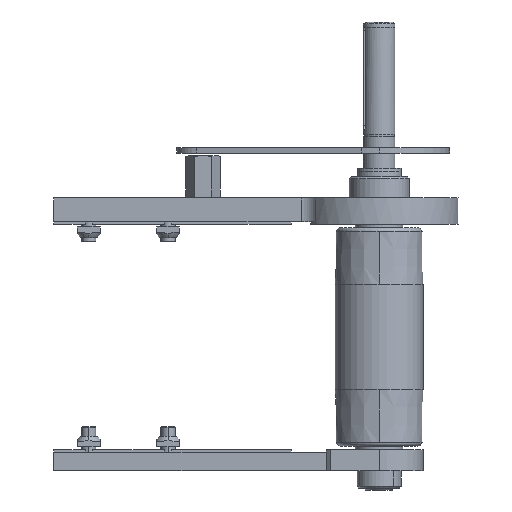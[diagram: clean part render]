
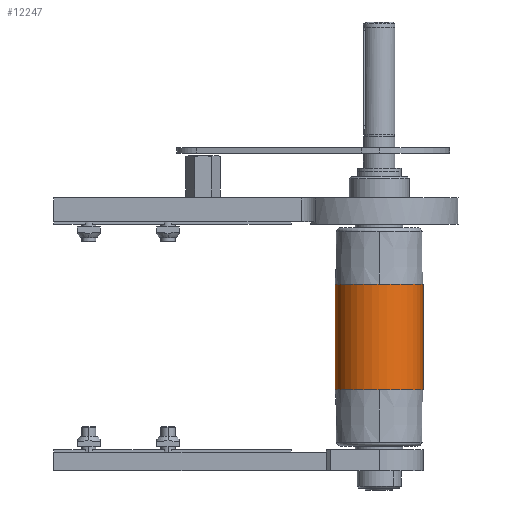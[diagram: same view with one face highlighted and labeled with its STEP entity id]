
A CAD part, front view. The second image highlights one B-rep face of the part: STEP entity #12247.
In plain terms, the highlighted cylindrical face has radius 25 mm (diameter 50 mm), a partial arc.
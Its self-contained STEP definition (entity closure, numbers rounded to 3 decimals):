
#129 = CARTESIAN_POINT ( 'NONE',  ( 30., 25., 0. ) ) ;
#339 = CIRCLE ( 'NONE', #13323, 25. ) ;
#432 = CIRCLE ( 'NONE', #2860, 25. ) ;
#478 = EDGE_CURVE ( 'NONE', #13536, #8490, #432, .T. ) ;
#900 = DIRECTION ( 'NONE',  ( 0., 0., 1. ) ) ;
#1091 = EDGE_CURVE ( 'NONE', #15106, #13536, #339, .T. ) ;
#1185 = ORIENTED_EDGE ( 'NONE', *, *, #1091, .T. ) ;
#2029 = CIRCLE ( 'NONE', #15838, 25. ) ;
#2373 = VERTEX_POINT ( 'NONE', #7479 ) ;
#2701 = CARTESIAN_POINT ( 'NONE',  ( 30., 0., 0. ) ) ;
#2860 = AXIS2_PLACEMENT_3D ( 'NONE', #9038, #10332, #13995 ) ;
#2891 = VERTEX_POINT ( 'NONE', #4787 ) ;
#2894 = DIRECTION ( 'NONE',  ( -1., 0., 0. ) ) ;
#3293 = DIRECTION ( 'NONE',  ( 0., -1., 0. ) ) ;
#3425 = DIRECTION ( 'NONE',  ( -1., 0., 0. ) ) ;
#3837 = CARTESIAN_POINT ( 'NONE',  ( -30., 0., 0. ) ) ;
#3881 = LINE ( 'NONE', #5855, #7639 ) ;
#4016 = ORIENTED_EDGE ( 'NONE', *, *, #14742, .F. ) ;
#4424 = EDGE_LOOP ( 'NONE', ( #1185, #6527, #13942, #10044, #10400, #4016 ) ) ;
#4787 = CARTESIAN_POINT ( 'NONE',  ( -30., 0., -25. ) ) ;
#4902 = AXIS2_PLACEMENT_3D ( 'NONE', #8504, #5888, #900 ) ;
#5855 = CARTESIAN_POINT ( 'NONE',  ( 60., 0., 25. ) ) ;
#5888 = DIRECTION ( 'NONE',  ( -1., 0., 0. ) ) ;
#6527 = ORIENTED_EDGE ( 'NONE', *, *, #478, .T. ) ;
#6647 = CARTESIAN_POINT ( 'NONE',  ( 60., 0., -25. ) ) ;
#7224 = CIRCLE ( 'NONE', #9968, 25. ) ;
#7479 = CARTESIAN_POINT ( 'NONE',  ( -30., 25., 0. ) ) ;
#7588 = DIRECTION ( 'NONE',  ( 0., -1., 0. ) ) ;
#7639 = VECTOR ( 'NONE', #3425, 1000. ) ;
#7830 = DIRECTION ( 'NONE',  ( 0., -1., 0. ) ) ;
#7974 = CARTESIAN_POINT ( 'NONE',  ( 30., 0., 25. ) ) ;
#8454 = EDGE_CURVE ( 'NONE', #13139, #2373, #7224, .T. ) ;
#8490 = VERTEX_POINT ( 'NONE', #15245 ) ;
#8504 = CARTESIAN_POINT ( 'NONE',  ( 60., 0., 0. ) ) ;
#8994 = DIRECTION ( 'NONE',  ( -1., 0., 0. ) ) ;
#9038 = CARTESIAN_POINT ( 'NONE',  ( 30., 0., 0. ) ) ;
#9684 = EDGE_CURVE ( 'NONE', #2373, #2891, #2029, .T. ) ;
#9968 = AXIS2_PLACEMENT_3D ( 'NONE', #3837, #8994, #7588 ) ;
#10044 = ORIENTED_EDGE ( 'NONE', *, *, #9684, .F. ) ;
#10332 = DIRECTION ( 'NONE',  ( -1., 0., 0. ) ) ;
#10400 = ORIENTED_EDGE ( 'NONE', *, *, #8454, .F. ) ;
#10898 = DIRECTION ( 'NONE',  ( -1., 0., 0. ) ) ;
#11641 = DIRECTION ( 'NONE',  ( -1., 0., 0. ) ) ;
#11707 = EDGE_CURVE ( 'NONE', #8490, #2891, #14087, .T. ) ;
#12247 = ADVANCED_FACE ( 'NONE', ( #14266 ), #15466, .T. ) ;
#13139 = VERTEX_POINT ( 'NONE', #14271 ) ;
#13256 = CARTESIAN_POINT ( 'NONE',  ( -30., 0., 0. ) ) ;
#13323 = AXIS2_PLACEMENT_3D ( 'NONE', #2701, #11641, #7830 ) ;
#13536 = VERTEX_POINT ( 'NONE', #129 ) ;
#13942 = ORIENTED_EDGE ( 'NONE', *, *, #11707, .T. ) ;
#13995 = DIRECTION ( 'NONE',  ( 0., -1., 0. ) ) ;
#14087 = LINE ( 'NONE', #6647, #16291 ) ;
#14266 = FACE_OUTER_BOUND ( 'NONE', #4424, .T. ) ;
#14271 = CARTESIAN_POINT ( 'NONE',  ( -30., 0., 25. ) ) ;
#14742 = EDGE_CURVE ( 'NONE', #15106, #13139, #3881, .T. ) ;
#15106 = VERTEX_POINT ( 'NONE', #7974 ) ;
#15245 = CARTESIAN_POINT ( 'NONE',  ( 30., 0., -25. ) ) ;
#15466 = CYLINDRICAL_SURFACE ( 'NONE', #4902, 25. ) ;
#15838 = AXIS2_PLACEMENT_3D ( 'NONE', #13256, #10898, #3293 ) ;
#16291 = VECTOR ( 'NONE', #2894, 1000. ) ;
